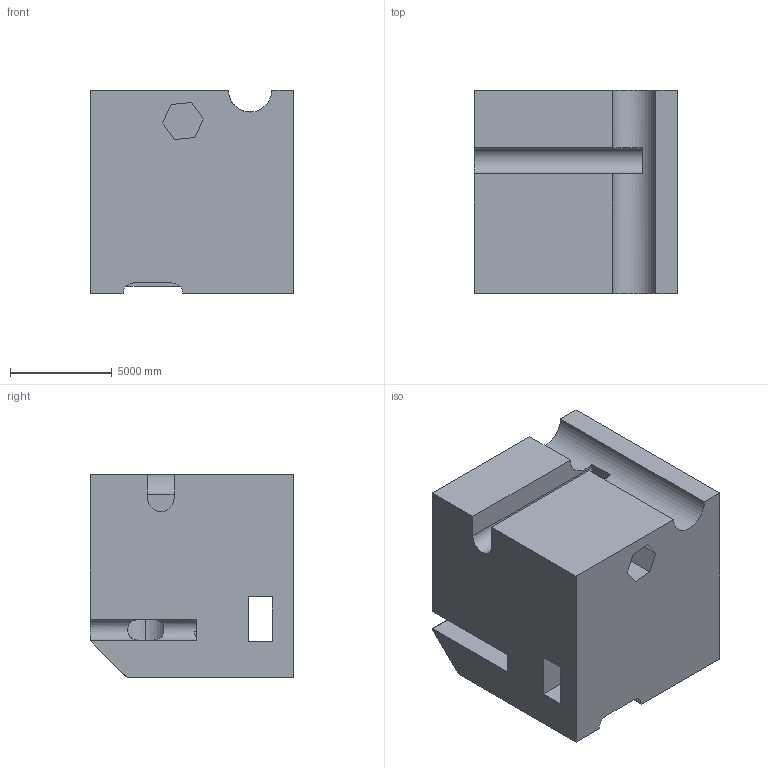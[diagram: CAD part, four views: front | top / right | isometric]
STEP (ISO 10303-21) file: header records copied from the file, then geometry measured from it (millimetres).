
FILE_DESCRIPTION (( 'STEP AP203' ), '1' );
FILE_NAME ('1950.STEP', '2022-08-23T09:52:02', ( 'user' ), ( '' ), 'SwSTEP 2.0', 'SolidWorks 2021', '' );
FILE_SCHEMA (( 'CONFIG_CONTROL_DESIGN' ));
Length unit declared in the file: centimetre
Products named in the file (1): 1950
Bounding box: 10000 x 10000 x 10000 mm (x, y, z)
Volume: 866849704056.2 mm3; surface area: 772680845.5 mm2
Topology: 1 solids, 1 shells, 46 faces, 138 edges, 92 vertices
Faces by surface type: plane 39, cylinder 7
Entity records: 2019 total; most frequent: CARTESIAN_POINT 695, ORIENTED_EDGE 276, DIRECTION 238, EDGE_CURVE 138, LINE 110, VECTOR 110, VERTEX_POINT 92, AXIS2_PLACEMENT_3D 64
